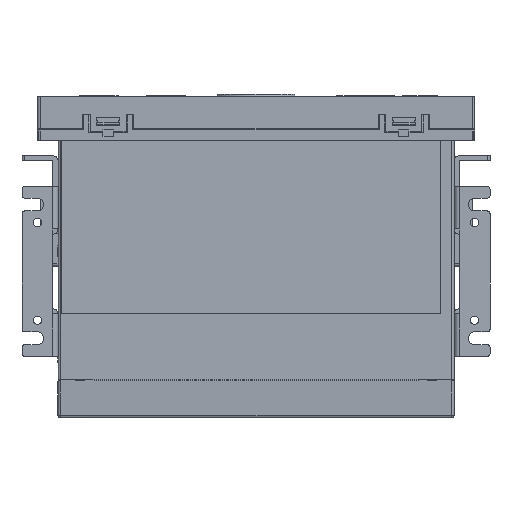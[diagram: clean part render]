
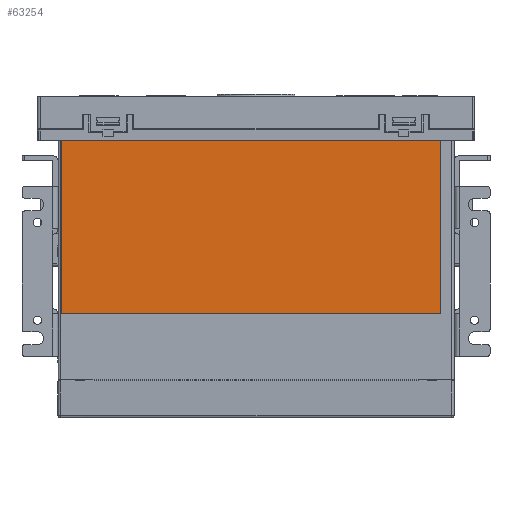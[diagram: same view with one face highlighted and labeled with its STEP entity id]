
A CAD part, front view. The second image highlights one B-rep face of the part: STEP entity #63254.
In plain terms, the highlighted planar face has unit normal (0, -1, 0).
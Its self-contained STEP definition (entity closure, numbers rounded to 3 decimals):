
#11457=DIRECTION('',(1.,0.,0.));
#11458=VECTOR('',#11457,147.581);
#11459=CARTESIAN_POINT('',(-75.817,-48.951,-84.4));
#11460=LINE('',#11459,#11458);
#11465=DIRECTION('',(1.,0.,0.));
#11466=VECTOR('',#11465,147.581);
#11467=CARTESIAN_POINT('',(-75.817,-48.951,-17.));
#11468=LINE('',#11467,#11466);
#11469=DIRECTION('',(0.,0.,-1.));
#11470=VECTOR('',#11469,67.4);
#11471=CARTESIAN_POINT('',(71.764,-48.951,-17.));
#11472=LINE('',#11471,#11470);
#11473=DIRECTION('',(0.,0.,1.));
#11474=VECTOR('',#11473,67.4);
#11475=CARTESIAN_POINT('',(-75.817,-48.951,-84.4));
#11476=LINE('',#11475,#11474);
#47659=CARTESIAN_POINT('',(-75.817,-48.951,-84.4));
#47660=CARTESIAN_POINT('',(-75.817,-48.951,-17.));
#47661=VERTEX_POINT('',#47659);
#47662=VERTEX_POINT('',#47660);
#47688=CARTESIAN_POINT('',(71.764,-48.951,-17.));
#47690=VERTEX_POINT('',#47688);
#47717=CARTESIAN_POINT('',(71.764,-48.951,-84.4));
#47718=VERTEX_POINT('',#47717);
#63243=CARTESIAN_POINT('',(-2.027,-48.951,-50.7));
#63244=DIRECTION('',(0.,1.,0.));
#63245=DIRECTION('',(-1.,0.,0.));
#63246=AXIS2_PLACEMENT_3D('',#63243,#63244,#63245);
#63247=PLANE('',#63246);
#63248=ORIENTED_EDGE('',*,*,#63173,.T.);
#63249=ORIENTED_EDGE('',*,*,#63211,.T.);
#63250=ORIENTED_EDGE('',*,*,#63224,.F.);
#63251=ORIENTED_EDGE('',*,*,#63236,.T.);
#63252=EDGE_LOOP('',(#63248,#63249,#63250,#63251));
#63253=FACE_OUTER_BOUND('',#63252,.F.);
#63254=ADVANCED_FACE('',(#63253),#63247,.F.);
#63173=EDGE_CURVE('',#47662,#47690,#11468,.T.);
#63211=EDGE_CURVE('',#47690,#47718,#11472,.T.);
#63224=EDGE_CURVE('',#47661,#47718,#11460,.T.);
#63236=EDGE_CURVE('',#47661,#47662,#11476,.T.);
